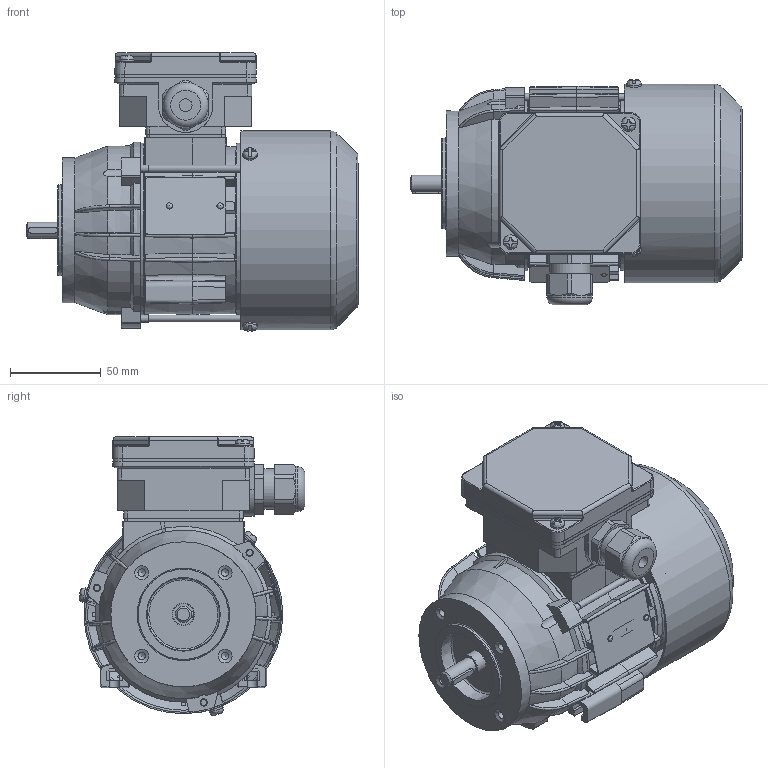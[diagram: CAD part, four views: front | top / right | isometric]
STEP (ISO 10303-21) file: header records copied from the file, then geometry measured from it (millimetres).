
FILE_DESCRIPTION( ( 'Unknown' ), '1' );
FILE_NAME( 'G:/Poczta Tk-1/STP/w.m.56/Sh56/SKh56-A2.stp', 'Unknown', ( 'K. Szlosek' ), ( 'BESEL S.A.' ), 'PSStep 17.0.49', 'Unknown', ' ' );
FILE_SCHEMA( ( 'AUTOMOTIVE_DESIGN { 1 0 10303 214 1 1 1 1 }' ) );
Length unit declared in the file: millimetre
Products named in the file (28): Assem1; K4-2320 Uszczelka nr 1 Sh71,80; K3-9987 kadłub ze stojanem Sh56-B; K3-2193 Tarcza łożyskowa P Sg56-2..; K3-9990 wał Sh56-B; K2-0860 Pokrywka skrzynki zaciskowej; Wpust A3x3x16; K4-2820 Uszczelka nr 2 Sh71,80; Wkręt samogwintujący M4x8; Wkręt samogwintujący M4x16; K2-0879 Przewietrznik Sg56; Nitokołek A 2x6; K1-0533 Tarcza kołnierzowa B14_2 SKg56-..2; K3-11363 Osłona przewietrznika Sh 56_A; K2-0859 Podstawa skrzynki 6-cio zaciskowej; Łożysko 6201; Śruba ściągająca E_M4x75; Tabliczka znamionowa 32x44; Dławnica M20x1,5
Assembly tree (43 placements, depth 2):
  Assem1
    K4-2320 Uszczelka nr 1 Sh71,80
    K3-9987 kadłub ze stojanem Sh56-B
    K3-2193 Tarcza łożyskowa P Sg56-2..
    K3-9990 wał Sh56-B
    K2-0860 Pokrywka skrzynki zaciskowej
    Wpust A3x3x16
    K4-2820 Uszczelka nr 2 Sh71,80
    Wkręt samogwintujący M4x8  x3
    Wkręt samogwintujący M4x16  x2
    K2-0879 Przewietrznik Sg56
    Nitokołek A 2x6  x2
    K1-0533 Tarcza kołnierzowa B14_2 SKg56-..2
    K3-11363 Osłona przewietrznika Sh 56_A
    K2-0859 Podstawa skrzynki 6-cio zaciskowej
    Łożysko 6201  x2
    Łożysko 6201  x2
    Łożysko 6201  x2
    Łożysko 6201  x2
    Łożysko 6201  x2
    Łożysko 6201  x2
    Łożysko 6201  x2
    Łożysko 6201  x2
    Łożysko 6201  x2
    Łożysko 6201  x2
    Śruba ściągająca E_M4x75  x3
    Tabliczka znamionowa 32x44
    Dławnica M20x1,5
Bounding box: 183 x 124.54 x 153.72 mm (x, y, z)
Volume: 386181.8 mm3; surface area: 287966.3 mm2
Topology: 43 solids, 59 shells, 1766 faces, 4784 edges, 3093 vertices
Faces by surface type: plane 913, cylinder 499, cone 132, torus 96, bspline 92, sphere 34
Full cylindrical faces by diameter (mm): 2 x2, 2.4 x2, 3.242 x3, 3.7 x10, 4 x8, 4.134 x4, 4.5 x4, 4.6 x1, 4.8 x4, 5 x4, 7 x4, 8 x6, 9 x1, 10.9 x1, 11 x1, 11.5 x1, 11.8 x2, 12 x4, 12.4 x2, 15.5 x1, 16 x1, 16.1 x1, 17 x2, 18.376 x1, 18.38 x1, 18.52 x4, 20 x1, 22.3 x1, 24 x2, 25 x1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
Entity records: 72877 total; most frequent: CARTESIAN_POINT 20013, ORIENTED_EDGE 8204, DIRECTION 8118, EDGE_CURVE 4102, AXIS2_PLACEMENT_3D 3031, VERTEX_POINT 2786, LINE 2056, VECTOR 2056
